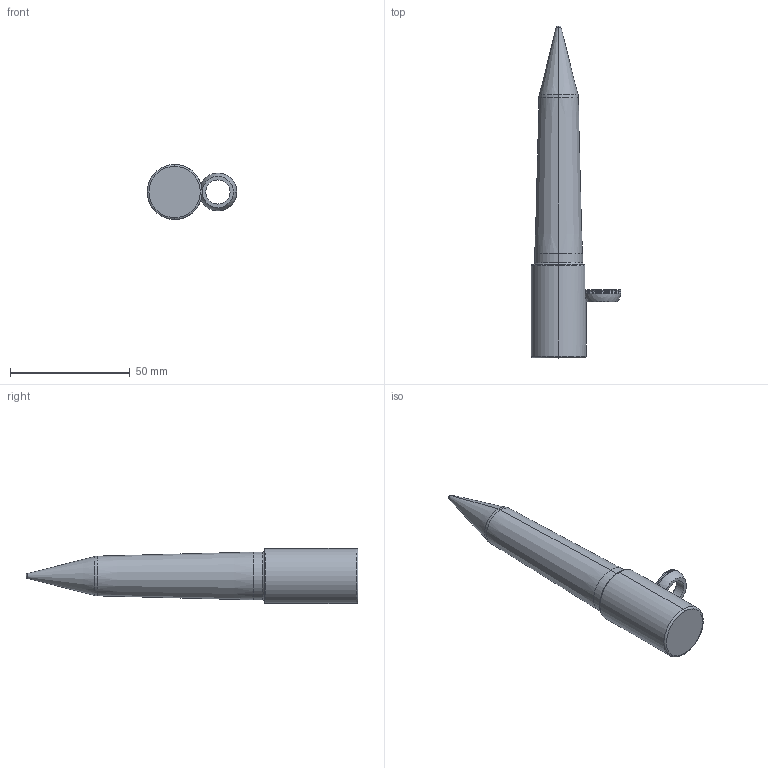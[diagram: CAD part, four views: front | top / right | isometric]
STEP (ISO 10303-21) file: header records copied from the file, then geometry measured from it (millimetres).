
FILE_DESCRIPTION (( 'STEP AP214' ), '1' );
FILE_NAME ('PA-T-20mm-3.8mm-65mm-3-A-F1.STEP', '2019-05-08T18:13:45', ( '' ), ( '' ), 'SwSTEP 2.0', 'SolidWorks 2017', '' );
FILE_SCHEMA (( 'AUTOMOTIVE_DESIGN' ));
Length unit declared in the file: inch
Products named in the file (3): PA-T-20mm-3.8mm-65mm-3-A-F1; SLPilot-PA-T-M_PA-T-20-3.8-65-3-A-F1; SLRadiusWasher_RadiusWasher-M
Assembly tree (2 placements, depth 2):
  PA-T-20mm-3.8mm-65mm-3-A-F1
    SLRadiusWasher_RadiusWasher-M
    SLPilot-PA-T-M_PA-T-20-3.8-65-3-A-F1
Bounding box: 37.55 x 138.81 x 23 mm (x, y, z)
Volume: 37744.2 mm3; surface area: 8786.9 mm2
Topology: 2 solids, 2 shells, 41 faces, 89 edges, 52 vertices
Faces by surface type: torus 15, cylinder 11, cone 6, plane 5, sphere 4
Entity records: 1316 total; most frequent: CARTESIAN_POINT 252, DIRECTION 242, ORIENTED_EDGE 178, AXIS2_PLACEMENT_3D 112, EDGE_CURVE 89, CIRCLE 66, VERTEX_POINT 52, EDGE_LOOP 43
